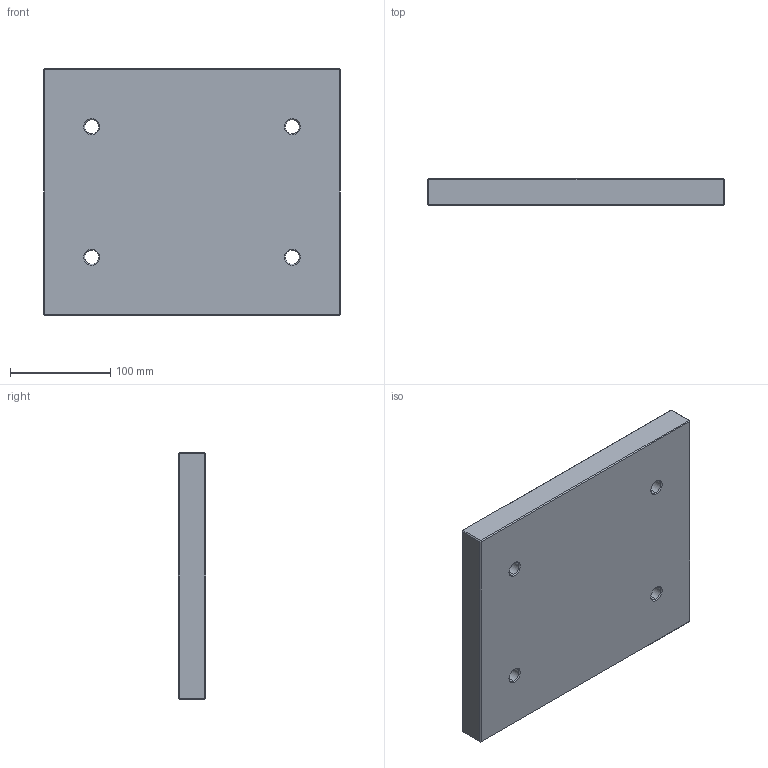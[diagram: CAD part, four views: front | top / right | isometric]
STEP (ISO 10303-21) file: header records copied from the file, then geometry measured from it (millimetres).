
FILE_DESCRIPTION (( 'STEP AP214' ), '1' );
FILE_NAME ('246x246x27.STEP', '2020-03-09T17:38:51', ( 'August' ), ( '' ), 'SwSTEP 2.0', 'SolidWorks 2018', '' );
FILE_SCHEMA (( 'AUTOMOTIVE_DESIGN' ));
Length unit declared in the file: millimetre
Products named in the file (1): 246x246x27
Bounding box: 296 x 27 x 246 mm (x, y, z)
Volume: 1939079.6 mm3; surface area: 177898 mm2
Topology: 1 solids, 1 shells, 62 faces, 128 edges, 72 vertices
Faces by surface type: plane 30, cone 16, cylinder 16
Entity records: 1650 total; most frequent: DIRECTION 302, CARTESIAN_POINT 263, ORIENTED_EDGE 256, EDGE_CURVE 128, AXIS2_PLACEMENT_3D 111, LINE 80, VECTOR 80, EDGE_LOOP 74
